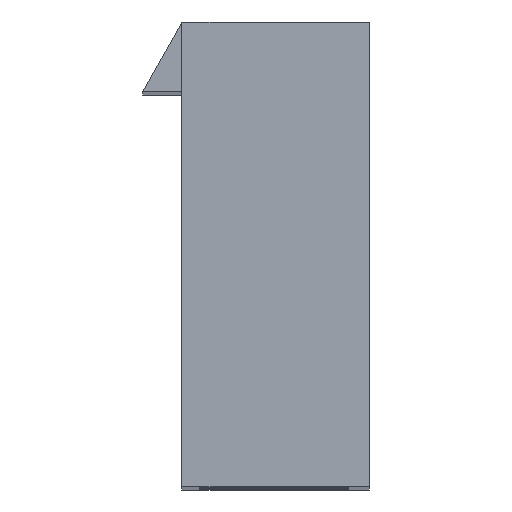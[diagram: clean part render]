
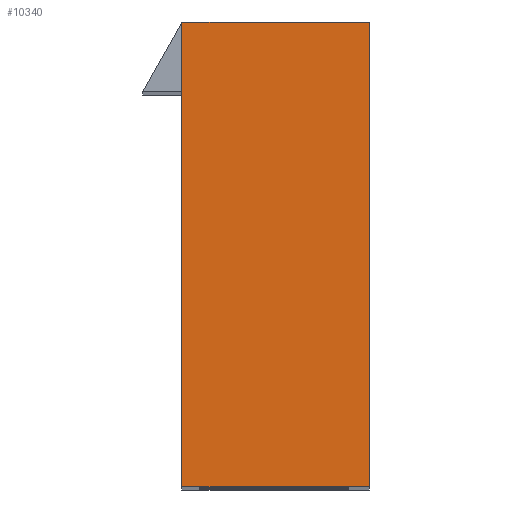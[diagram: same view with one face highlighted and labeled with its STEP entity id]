
A CAD part, top view. The second image highlights one B-rep face of the part: STEP entity #10340.
In plain terms, the highlighted planar face has unit normal (0, 0, 1).
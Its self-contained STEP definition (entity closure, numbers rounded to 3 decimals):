
#1379 = CARTESIAN_POINT ( 'NONE',  ( -0.675, 0., 59.6 ) ) ;
#2626 = LINE ( 'NONE', #3668, #12171 ) ;
#3253 = CARTESIAN_POINT ( 'NONE',  ( -3.225, 8., 59.6 ) ) ;
#3668 = CARTESIAN_POINT ( 'NONE',  ( -3.225, -8., 59.6 ) ) ;
#3708 = CARTESIAN_POINT ( 'NONE',  ( 3.225, 8., 59.6 ) ) ;
#4639 = ORIENTED_EDGE ( 'NONE', *, *, #7683, .F. ) ;
#4945 = DIRECTION ( 'NONE',  ( 0., -1., 0. ) ) ;
#5330 = ORIENTED_EDGE ( 'NONE', *, *, #6373, .F. ) ;
#5346 = DIRECTION ( 'NONE',  ( 0., 1., 0. ) ) ;
#5352 = LINE ( 'NONE', #8922, #14115 ) ;
#6373 = EDGE_CURVE ( 'NONE', #11431, #12480, #12514, .T. ) ;
#7041 = ORIENTED_EDGE ( 'NONE', *, *, #12738, .F. ) ;
#7557 = EDGE_LOOP ( 'NONE', ( #10621, #7041, #4639, #5330 ) ) ;
#7683 = EDGE_CURVE ( 'NONE', #12480, #12682, #5352, .T. ) ;
#8493 = CARTESIAN_POINT ( 'NONE',  ( -3.225, -8., 59.6 ) ) ;
#8922 = CARTESIAN_POINT ( 'NONE',  ( 3.225, -8., 59.6 ) ) ;
#9031 = CARTESIAN_POINT ( 'NONE',  ( -3.225, 8., 59.6 ) ) ;
#9410 = CARTESIAN_POINT ( 'NONE',  ( 3.225, -8., 59.6 ) ) ;
#9637 = EDGE_CURVE ( 'NONE', #12019, #11431, #9890, .T. ) ;
#9890 = LINE ( 'NONE', #3253, #11286 ) ;
#9894 = DIRECTION ( 'NONE',  ( 0., -1., 0. ) ) ;
#10208 = DIRECTION ( 'NONE',  ( -1., 0., 0. ) ) ;
#10340 = ADVANCED_FACE ( 'NONE', ( #11577 ), #12841, .T. ) ;
#10360 = CARTESIAN_POINT ( 'NONE',  ( 3.225, 8., 59.6 ) ) ;
#10621 = ORIENTED_EDGE ( 'NONE', *, *, #9637, .F. ) ;
#10831 = AXIS2_PLACEMENT_3D ( 'NONE', #1379, #12917, #4945 ) ;
#11286 = VECTOR ( 'NONE', #5346, 1000. ) ;
#11431 = VERTEX_POINT ( 'NONE', #9031 ) ;
#11577 = FACE_OUTER_BOUND ( 'NONE', #7557, .T. ) ;
#12019 = VERTEX_POINT ( 'NONE', #8493 ) ;
#12171 = VECTOR ( 'NONE', #10208, 1000. ) ;
#12480 = VERTEX_POINT ( 'NONE', #3708 ) ;
#12514 = LINE ( 'NONE', #10360, #13353 ) ;
#12682 = VERTEX_POINT ( 'NONE', #9410 ) ;
#12738 = EDGE_CURVE ( 'NONE', #12682, #12019, #2626, .T. ) ;
#12754 = DIRECTION ( 'NONE',  ( 1., 0., 0. ) ) ;
#12841 = PLANE ( 'NONE',  #10831 ) ;
#12917 = DIRECTION ( 'NONE',  ( 0., 0., 1. ) ) ;
#13353 = VECTOR ( 'NONE', #12754, 1000. ) ;
#14115 = VECTOR ( 'NONE', #9894, 1000. ) ;
